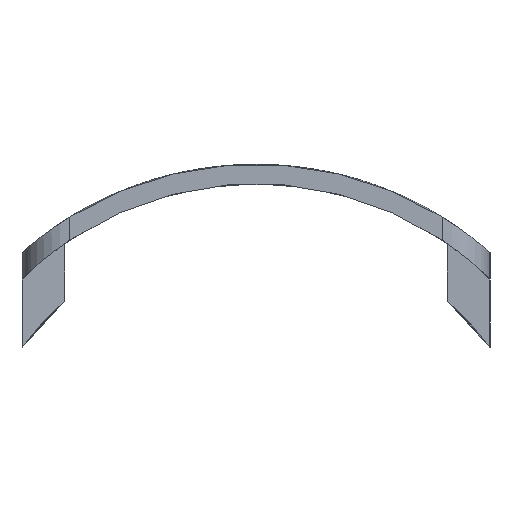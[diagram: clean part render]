
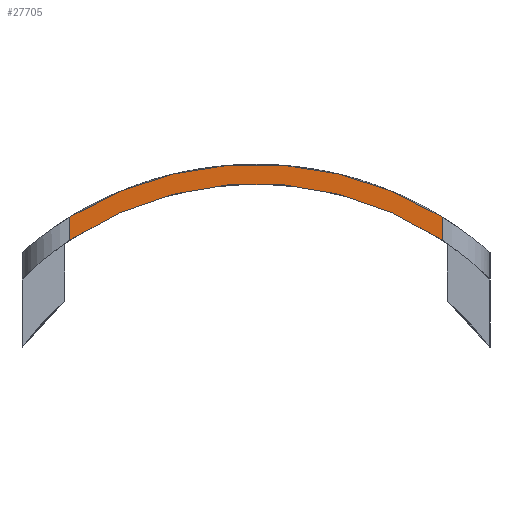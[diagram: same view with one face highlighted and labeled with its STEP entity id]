
A CAD part, left-side view. The second image highlights one B-rep face of the part: STEP entity #27705.
In plain terms, the highlighted planar face has unit normal (-1, 0, 0).
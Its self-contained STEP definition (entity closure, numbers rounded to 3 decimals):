
#22 = VERTEX_POINT('',#23);
#23 = CARTESIAN_POINT('',(245.3,10.5,17.022));
#61 = CYLINDRICAL_SURFACE('',#62,20.);
#62 = AXIS2_PLACEMENT_3D('',#63,#64,#65);
#63 = CARTESIAN_POINT('',(244.,0.,0.));
#64 = DIRECTION('',(1.,0.,0.));
#65 = DIRECTION('',(-0.,0.,1.));
#102 = CYLINDRICAL_SURFACE('',#103,2.7);
#103 = AXIS2_PLACEMENT_3D('',#104,#105,#106);
#104 = CARTESIAN_POINT('',(248.,10.5,5.));
#105 = DIRECTION('',(0.,0.,1.));
#106 = DIRECTION('',(-1.,-0.,0.));
#143 = EDGE_CURVE('',#22,#144,#146,.T.);
#144 = VERTEX_POINT('',#145);
#145 = CARTESIAN_POINT('',(245.3,-10.5,17.022));
#146 = SURFACE_CURVE('',#147,(#152,#159),.PCURVE_S1.);
#147 = CIRCLE('',#148,20.);
#148 = AXIS2_PLACEMENT_3D('',#149,#150,#151);
#149 = CARTESIAN_POINT('',(245.3,0.,0.));
#150 = DIRECTION('',(1.,0.,0.));
#151 = DIRECTION('',(-0.,0.525,0.851));
#152 = PCURVE('',#61,#153);
#153 = DEFINITIONAL_REPRESENTATION('',(#154),#158);
#154 = LINE('',#155,#156);
#155 = CARTESIAN_POINT('',(5.73,1.3));
#156 = VECTOR('',#157,1.);
#157 = DIRECTION('',(1.,0.));
#158 = ( GEOMETRIC_REPRESENTATION_CONTEXT(2) 
PARAMETRIC_REPRESENTATION_CONTEXT() REPRESENTATION_CONTEXT('2D SPACE',''
  ) );
#159 = PCURVE('',#160,#165);
#160 = PLANE('',#161);
#161 = AXIS2_PLACEMENT_3D('',#162,#163,#164);
#162 = CARTESIAN_POINT('',(245.3,-13.2,5.));
#163 = DIRECTION('',(1.,0.,0.));
#164 = DIRECTION('',(0.,0.,1.));
#165 = DEFINITIONAL_REPRESENTATION('',(#166),#170);
#166 = CIRCLE('',#167,20.);
#167 = AXIS2_PLACEMENT_2D('',#168,#169);
#168 = CARTESIAN_POINT('',(-5.,-13.2));
#169 = DIRECTION('',(0.851,-0.525));
#170 = ( GEOMETRIC_REPRESENTATION_CONTEXT(2) 
PARAMETRIC_REPRESENTATION_CONTEXT() REPRESENTATION_CONTEXT('2D SPACE',''
  ) );
#246 = CYLINDRICAL_SURFACE('',#247,2.7);
#247 = AXIS2_PLACEMENT_3D('',#248,#249,#250);
#248 = CARTESIAN_POINT('',(248.,-10.5,5.));
#249 = DIRECTION('',(0.,0.,1.));
#250 = DIRECTION('',(-1.,-0.,0.));
#20300 = CYLINDRICAL_SURFACE('',#20301,18.9);
#20301 = AXIS2_PLACEMENT_3D('',#20302,#20303,#20304);
#20302 = CARTESIAN_POINT('',(243.,0.,0.));
#20303 = DIRECTION('',(1.,0.,0.));
#20304 = DIRECTION('',(-0.,0.,1.));
#20334 = VERTEX_POINT('',#20335);
#20335 = CARTESIAN_POINT('',(245.3,10.5,15.715));
#20445 = EDGE_CURVE('',#20334,#20446,#20448,.T.);
#20446 = VERTEX_POINT('',#20447);
#20447 = CARTESIAN_POINT('',(245.3,-10.5,15.715));
#20448 = SURFACE_CURVE('',#20449,(#20454,#20461),.PCURVE_S1.);
#20449 = CIRCLE('',#20450,18.9);
#20450 = AXIS2_PLACEMENT_3D('',#20451,#20452,#20453);
#20451 = CARTESIAN_POINT('',(245.3,0.,0.));
#20452 = DIRECTION('',(1.,0.,0.));
#20453 = DIRECTION('',(-0.,0.556,0.831));
#20454 = PCURVE('',#20300,#20455);
#20455 = DEFINITIONAL_REPRESENTATION('',(#20456),#20460);
#20456 = LINE('',#20457,#20458);
#20457 = CARTESIAN_POINT('',(5.694,2.3));
#20458 = VECTOR('',#20459,1.);
#20459 = DIRECTION('',(1.,0.));
#20460 = ( GEOMETRIC_REPRESENTATION_CONTEXT(2) 
PARAMETRIC_REPRESENTATION_CONTEXT() REPRESENTATION_CONTEXT('2D SPACE',''
  ) );
#20461 = PCURVE('',#160,#20462);
#20462 = DEFINITIONAL_REPRESENTATION('',(#20463),#20467);
#20463 = CIRCLE('',#20464,18.9);
#20464 = AXIS2_PLACEMENT_2D('',#20465,#20466);
#20465 = CARTESIAN_POINT('',(-5.,-13.2));
#20466 = DIRECTION('',(0.831,-0.556));
#20467 = ( GEOMETRIC_REPRESENTATION_CONTEXT(2) 
PARAMETRIC_REPRESENTATION_CONTEXT() REPRESENTATION_CONTEXT('2D SPACE',''
  ) );
#27682 = EDGE_CURVE('',#20446,#144,#27683,.T.);
#27683 = SURFACE_CURVE('',#27684,(#27688,#27695),.PCURVE_S1.);
#27684 = LINE('',#27685,#27686);
#27685 = CARTESIAN_POINT('',(245.3,-10.5,5.));
#27686 = VECTOR('',#27687,1.);
#27687 = DIRECTION('',(0.,0.,1.));
#27688 = PCURVE('',#246,#27689);
#27689 = DEFINITIONAL_REPRESENTATION('',(#27690),#27694);
#27690 = LINE('',#27691,#27692);
#27691 = CARTESIAN_POINT('',(0.,0.));
#27692 = VECTOR('',#27693,1.);
#27693 = DIRECTION('',(0.,1.));
#27694 = ( GEOMETRIC_REPRESENTATION_CONTEXT(2) 
PARAMETRIC_REPRESENTATION_CONTEXT() REPRESENTATION_CONTEXT('2D SPACE',''
  ) );
#27695 = PCURVE('',#160,#27696);
#27696 = DEFINITIONAL_REPRESENTATION('',(#27697),#27701);
#27697 = LINE('',#27698,#27699);
#27698 = CARTESIAN_POINT('',(0.,-2.7));
#27699 = VECTOR('',#27700,1.);
#27700 = DIRECTION('',(1.,0.));
#27701 = ( GEOMETRIC_REPRESENTATION_CONTEXT(2) 
PARAMETRIC_REPRESENTATION_CONTEXT() REPRESENTATION_CONTEXT('2D SPACE',''
  ) );
#27705 = ADVANCED_FACE('',(#27706),#160,.F.);
#27706 = FACE_BOUND('',#27707,.F.);
#27707 = EDGE_LOOP('',(#27708,#27709,#27710,#27711));
#27708 = ORIENTED_EDGE('',*,*,#143,.T.);
#27709 = ORIENTED_EDGE('',*,*,#27682,.F.);
#27710 = ORIENTED_EDGE('',*,*,#20445,.F.);
#27711 = ORIENTED_EDGE('',*,*,#27712,.T.);
#27712 = EDGE_CURVE('',#20334,#22,#27713,.T.);
#27713 = SURFACE_CURVE('',#27714,(#27718,#27725),.PCURVE_S1.);
#27714 = LINE('',#27715,#27716);
#27715 = CARTESIAN_POINT('',(245.3,10.5,5.));
#27716 = VECTOR('',#27717,1.);
#27717 = DIRECTION('',(0.,0.,1.));
#27718 = PCURVE('',#160,#27719);
#27719 = DEFINITIONAL_REPRESENTATION('',(#27720),#27724);
#27720 = LINE('',#27721,#27722);
#27721 = CARTESIAN_POINT('',(0.,-23.7));
#27722 = VECTOR('',#27723,1.);
#27723 = DIRECTION('',(1.,0.));
#27724 = ( GEOMETRIC_REPRESENTATION_CONTEXT(2) 
PARAMETRIC_REPRESENTATION_CONTEXT() REPRESENTATION_CONTEXT('2D SPACE',''
  ) );
#27725 = PCURVE('',#102,#27726);
#27726 = DEFINITIONAL_REPRESENTATION('',(#27727),#27731);
#27727 = LINE('',#27728,#27729);
#27728 = CARTESIAN_POINT('',(-0.,0.));
#27729 = VECTOR('',#27730,1.);
#27730 = DIRECTION('',(-0.,1.));
#27731 = ( GEOMETRIC_REPRESENTATION_CONTEXT(2) 
PARAMETRIC_REPRESENTATION_CONTEXT() REPRESENTATION_CONTEXT('2D SPACE',''
  ) );
